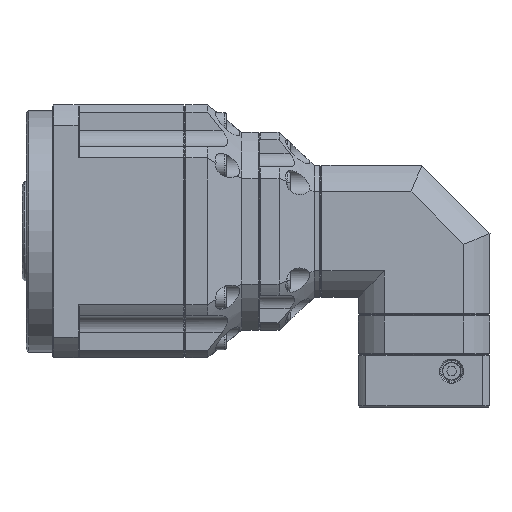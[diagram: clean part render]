
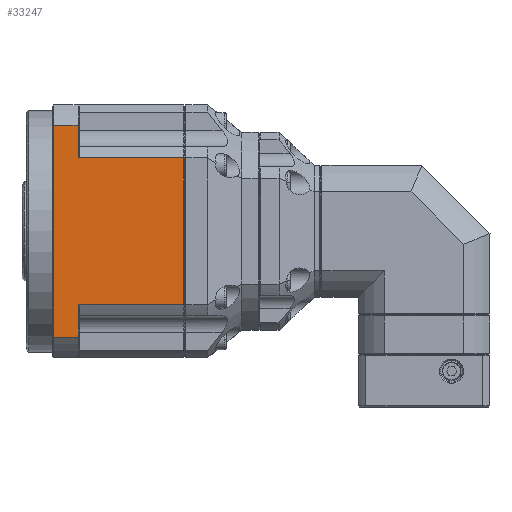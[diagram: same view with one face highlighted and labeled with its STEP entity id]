
A CAD part, left-side view. The second image highlights one B-rep face of the part: STEP entity #33247.
In plain terms, the highlighted planar face has unit normal (1, 0, 0).
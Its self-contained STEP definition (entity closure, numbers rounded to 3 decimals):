
#1490 = VERTEX_POINT ( 'NONE', #63804 ) ;
#4797 = EDGE_CURVE ( 'NONE', #16502, #12820, #66977, .T. ) ;
#7387 = ORIENTED_EDGE ( 'NONE', *, *, #90204, .T. ) ;
#7774 = DIRECTION ( 'NONE',  ( 0., 0., 1. ) ) ;
#9661 = CARTESIAN_POINT ( 'NONE',  ( -57.5, 24.889, 0. ) ) ;
#10210 = VERTEX_POINT ( 'NONE', #56489 ) ;
#10220 = DIRECTION ( 'NONE',  ( 0., 0., 1. ) ) ;
#11912 = CARTESIAN_POINT ( 'NONE',  ( -57.5, -4.611, 33.407 ) ) ;
#12820 = VERTEX_POINT ( 'NONE', #24152 ) ;
#12962 = ORIENTED_EDGE ( 'NONE', *, *, #45222, .F. ) ;
#13822 = DIRECTION ( 'NONE',  ( 0., -1., 0. ) ) ;
#15339 = CARTESIAN_POINT ( 'NONE',  ( -57.5, 13.889, 0. ) ) ;
#16315 = DIRECTION ( 'NONE',  ( 0., 0., 1. ) ) ;
#16502 = VERTEX_POINT ( 'NONE', #49522 ) ;
#17689 = LINE ( 'NONE', #93376, #55541 ) ;
#19212 = LINE ( 'NONE', #51448, #36934 ) ;
#21349 = EDGE_CURVE ( 'NONE', #12820, #75286, #19212, .T. ) ;
#24152 = CARTESIAN_POINT ( 'NONE',  ( -57.5, 13.889, -33.407 ) ) ;
#24839 = DIRECTION ( 'NONE',  ( 0., 0., -1. ) ) ;
#25701 = CARTESIAN_POINT ( 'NONE',  ( -57.5, -4.611, 48.153 ) ) ;
#25826 = VECTOR ( 'NONE', #24839, 1000. ) ;
#26767 = VECTOR ( 'NONE', #16315, 1000. ) ;
#29100 = DIRECTION ( 'NONE',  ( 1., 0., 0. ) ) ;
#31106 = ORIENTED_EDGE ( 'NONE', *, *, #70539, .F. ) ;
#31728 = ORIENTED_EDGE ( 'NONE', *, *, #71553, .F. ) ;
#33128 = VECTOR ( 'NONE', #78645, 1000. ) ;
#33247 = ADVANCED_FACE ( 'NONE', ( #91973 ), #74386, .T. ) ;
#35772 = ORIENTED_EDGE ( 'NONE', *, *, #69605, .F. ) ;
#36934 = VECTOR ( 'NONE', #13822, 1000. ) ;
#37408 = CARTESIAN_POINT ( 'NONE',  ( -57.5, 13.889, 33.407 ) ) ;
#45222 = EDGE_CURVE ( 'NONE', #79825, #80048, #54493, .T. ) ;
#49522 = CARTESIAN_POINT ( 'NONE',  ( -57.5, 13.889, -48.153 ) ) ;
#50870 = LINE ( 'NONE', #11912, #88717 ) ;
#51448 = CARTESIAN_POINT ( 'NONE',  ( -57.5, -4.611, -33.407 ) ) ;
#54493 = LINE ( 'NONE', #15339, #89928 ) ;
#55541 = VECTOR ( 'NONE', #10220, 1000. ) ;
#56489 = CARTESIAN_POINT ( 'NONE',  ( -57.5, 24.889, 48.153 ) ) ;
#57146 = CARTESIAN_POINT ( 'NONE',  ( -57.5, 13.889, 48.153 ) ) ;
#58775 = LINE ( 'NONE', #78059, #76579 ) ;
#63804 = CARTESIAN_POINT ( 'NONE',  ( -57.5, 24.889, -48.153 ) ) ;
#66977 = LINE ( 'NONE', #76520, #26767 ) ;
#69605 = EDGE_CURVE ( 'NONE', #94300, #79825, #50870, .T. ) ;
#70539 = EDGE_CURVE ( 'NONE', #80048, #10210, #91053, .T. ) ;
#70840 = ORIENTED_EDGE ( 'NONE', *, *, #21349, .F. ) ;
#71274 = ORIENTED_EDGE ( 'NONE', *, *, #4797, .F. ) ;
#71553 = EDGE_CURVE ( 'NONE', #10210, #1490, #86177, .T. ) ;
#72440 = DIRECTION ( 'NONE',  ( 0., 1., 0. ) ) ;
#74386 = PLANE ( 'NONE',  #89843 ) ;
#75286 = VERTEX_POINT ( 'NONE', #78468 ) ;
#76520 = CARTESIAN_POINT ( 'NONE',  ( -57.5, 13.889, 0. ) ) ;
#76579 = VECTOR ( 'NONE', #85633, 1000. ) ;
#78059 = CARTESIAN_POINT ( 'NONE',  ( -57.5, 19.389, -48.153 ) ) ;
#78468 = CARTESIAN_POINT ( 'NONE',  ( -57.5, -34.111, -33.407 ) ) ;
#78645 = DIRECTION ( 'NONE',  ( 0., 1., 0. ) ) ;
#79825 = VERTEX_POINT ( 'NONE', #37408 ) ;
#80048 = VERTEX_POINT ( 'NONE', #57146 ) ;
#82027 = DIRECTION ( 'NONE',  ( 0., 0., -1. ) ) ;
#83840 = ORIENTED_EDGE ( 'NONE', *, *, #95179, .F. ) ;
#85633 = DIRECTION ( 'NONE',  ( 0., 1., 0. ) ) ;
#85744 = CARTESIAN_POINT ( 'NONE',  ( -57.5, -34.111, 33.407 ) ) ;
#86066 = EDGE_LOOP ( 'NONE', ( #12962, #35772, #83840, #70840, #71274, #7387, #31728, #31106 ) ) ;
#86177 = LINE ( 'NONE', #9661, #25826 ) ;
#88717 = VECTOR ( 'NONE', #72440, 1000. ) ;
#89843 = AXIS2_PLACEMENT_3D ( 'NONE', #96527, #29100, #82027 ) ;
#89928 = VECTOR ( 'NONE', #7774, 1000. ) ;
#90204 = EDGE_CURVE ( 'NONE', #16502, #1490, #58775, .T. ) ;
#91053 = LINE ( 'NONE', #25701, #33128 ) ;
#91973 = FACE_OUTER_BOUND ( 'NONE', #86066, .T. ) ;
#93376 = CARTESIAN_POINT ( 'NONE',  ( -57.5, -34.111, 0. ) ) ;
#94300 = VERTEX_POINT ( 'NONE', #85744 ) ;
#95179 = EDGE_CURVE ( 'NONE', #75286, #94300, #17689, .T. ) ;
#96527 = CARTESIAN_POINT ( 'NONE',  ( -57.5, -34.111, 48.153 ) ) ;
